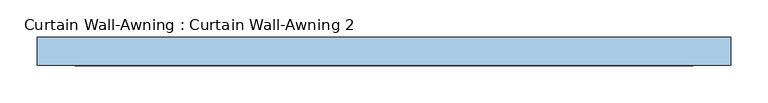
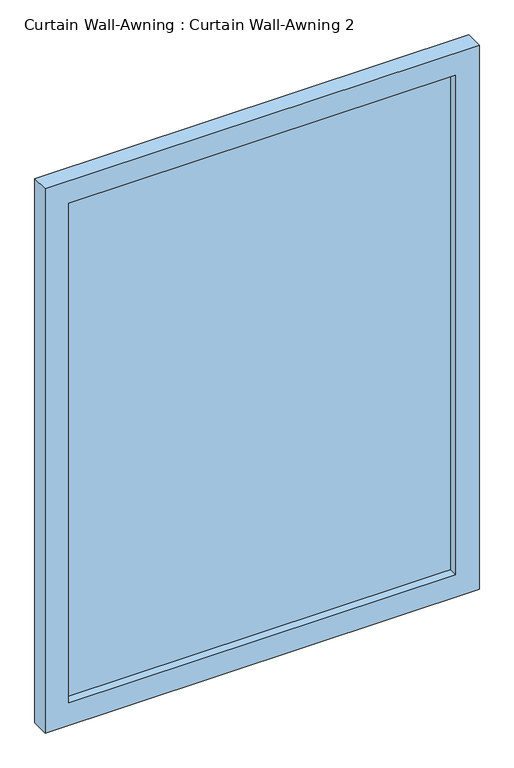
"""IFC4 building model written with IfcOpenShell, lengths in millimetres: window geometry, Curtain Wall-Awning : Curtain Wall-Awning 2."""

from ifc_helpers import new_model, si_unit, frame, origin, place, context, project, spatial, polyline, outline, extrude, source, transform, mapped, element, save


def curtain_wall_awning_curtain_wall_awning_2_53a7fe1b(model_context):
    return source(origin(), model_context, "Body", "SweptSolid", [
        extrude(outline(polyline([(415.925, -19.05), (-415.925, -19.05), (-415.925, -6.35), (415.925, -6.35), (415.925, -19.05)])), frame((0.0, 0.0, 50.8), z_axis=(0.0, 0.0, 1.0), x_axis=(1.0, 0.0, 0.0)), (0.0, 0.0, 1.0), 1134.635445),
        extrude(outline(polyline([(1236.235445, -466.725), (0.0, -466.725), (0.0, 466.725), (1236.235445, 466.725), (1236.235445, -466.725)]), holes=[polyline([(1185.435445, -415.925), (1185.435445, 415.925), (50.8, 415.925), (50.8, -415.925), (1185.435445, -415.925)])]), frame((0.0, -38.1, 0.0), z_axis=(0.0, 1.0, 0.0), x_axis=(0.0, 0.0, 1.0)), (0.0, 0.0, 1.0), 38.1),
    ])


if __name__ == "__main__":
    model = new_model("IFC4")
    model_context = context("Model", 3, world=origin())
    ifc_project = project(units=[si_unit("LENGTHUNIT", "METRE", prefix="MILLI")], contexts=[model_context])
    site = spatial("IfcSite", under=ifc_project)
    building = spatial("IfcBuilding", under=site)
    placement = place(None, origin())
    curtain_wall_awning_curtain_wall_awning_2_shape = curtain_wall_awning_curtain_wall_awning_2_53a7fe1b(model_context)
    element("IfcWindow", 1, ObjectType="Curtain Wall-Awning : Curtain Wall-Awning 2", at=placement, inside=building, context=model_context, shape_type="MappedRepresentation", body=[
        mapped(curtain_wall_awning_curtain_wall_awning_2_shape, transform((0.0, 0.0, 0.0), x_axis=(1.0, 0.0, 0.0), y_axis=(0.0, 1.0, 0.0), z_axis=(0.0, 0.0, 1.0))),
    ])
    save(model, "model.ifc")
